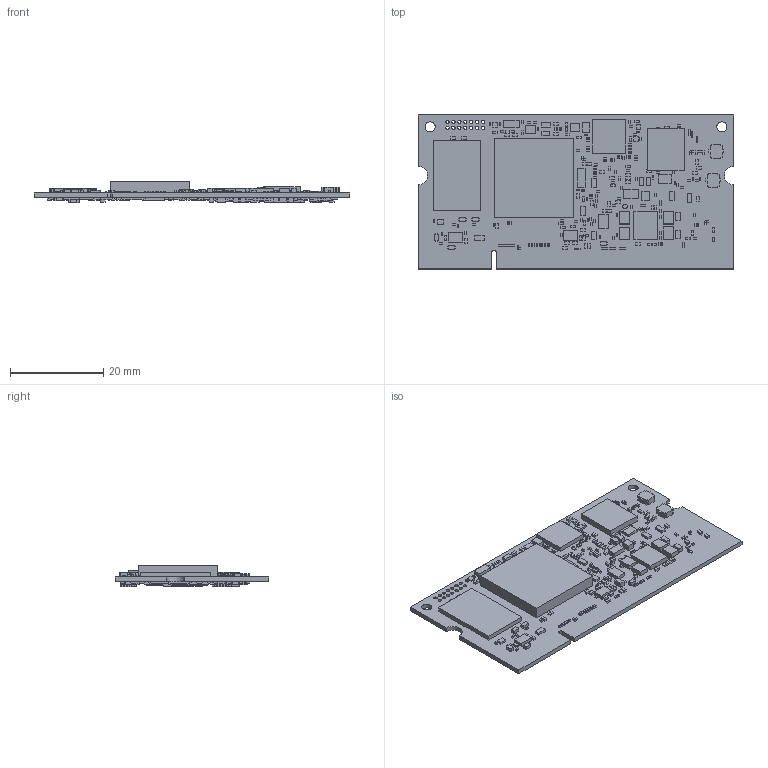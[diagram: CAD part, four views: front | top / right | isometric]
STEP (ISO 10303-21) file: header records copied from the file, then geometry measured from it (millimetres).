
FILE_DESCRIPTION(/* description */ (''),/* implementation_level */ '2;1');
FILE_NAME(/* name */ 'VAR-SOM-AM62P_Rev1.1.step',/* time_stamp */ '2025-09-15T12:16:26+03:00',/* author */ (''),/* organization */ (''),/* preprocessor_version */ 'ST-DEVELOPER v20.1',/* originating_system */ 'Autodesk Translation Framework v14.17.0.0',/* authorisation */ '');
FILE_SCHEMA (('AUTOMOTIVE_DESIGN { 1 0 10303 214 3 1 1 }'));
Products named in the file (664): VAR-SOM-AM62P-Rev1.1; Pcb; Electrical; J3; J2; QZ1; U26; U23; RN2; RN8; RN13; RN12; RN17; RN16; RN15; U20; U10; U19; RN10; RN6; RN5; RN4; RN3; RN7; RN14; R265; R264; R249; R221; R216; R168; R211; R92; R139; R193; R188; R61; R200; R37; R48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
Assembly tree (663 placements, depth 3):
  VAR-SOM-AM62P-Rev1.1
    Pcb
    Electrical
      J3
      J2
      QZ1
      U26
      U23
      RN2
      RN8
      RN13
      RN12
      RN17
      RN16
      RN15
      U20
      U10
      U19
      RN10
      RN6
      RN5
      RN4
      RN3
      RN7
      RN14
      R265
      R264
      R249
      R221
      R216
      R168
      R211
      R92
      R139
      R193
      R188
      R61
      R200
      R37
      R48
      R42
      R240
      R173
      R113
      R256
      R133
      R117
      R194
      R62
      R213
      R8
      R6
      R74
      R252
      R254
      R260
      R206
      R210
      R198
      R151
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Bounding box: 67.6 x 32.99 x 4.62 mm (x, y, z)
Volume: 3698.7 mm3; surface area: 8513 mm2
Topology: 661 solids, 661 shells, 4164 faces, 8526 edges, 5684 vertices
Faces by surface type: plane 4143, cylinder 21
Full cylindrical faces by diameter (mm): 0.711 x14, 1.006 x1, 2.159 x2
Entity records: 128417 total; most frequent: CARTESIAN_POINT 19701, DIRECTION 19550, ORIENTED_EDGE 17052, EDGE_CURVE 8526, LINE 8484, VECTOR 8484, VERTEX_POINT 5684, AXIS2_PLACEMENT_3D 5533
